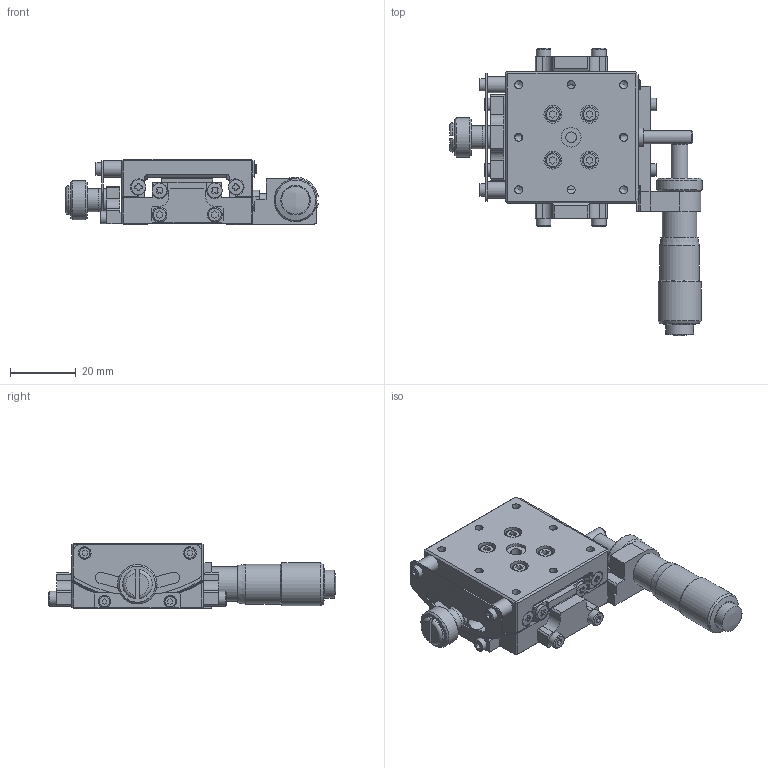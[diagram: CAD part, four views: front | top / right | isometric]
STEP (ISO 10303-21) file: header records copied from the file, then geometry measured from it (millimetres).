
FILE_DESCRIPTION((''),'2;1');
FILE_NAME('Y:\3DDATA\2_OpticalHard\02_海外製品\1_Stags\GOHT\□40ﾏｲｸﾛ式\GOHT-40A20BMSR\GOHT-40A20BMSR.stp','2014-02-27T18:20:49',('m.kadoya'),(''),'Autodesk Inventor 2008','Autodesk Inventor 2008','');
FILE_SCHEMA(('AUTOMOTIVE_DESIGN { 1 0 10303 214 1 1 1 1 }'));
Length unit declared in the file: millimetre
Products named in the file (4): GOHT40A20BMSR-M02-13001-TS01; GOHT40A20BMSR-M02-13001-S10; GOHT40A20BMSR-M02-13001-S11; SHS2-13-C1-S01
Assembly tree (3 placements, depth 2):
  GOHT40A20BMSR-M02-13001-TS01
    GOHT40A20BMSR-M02-13001-S10
    GOHT40A20BMSR-M02-13001-S11
    SHS2-13-C1-S01
Bounding box: 76.93 x 87.47 x 20 mm (x, y, z)
Volume: 33330.3 mm3; surface area: 24656.4 mm2
Topology: 17 solids, 32 shells, 942 faces, 2272 edges, 1480 vertices
Faces by surface type: plane 536, cylinder 174, bspline 148, cone 63, torus 12, sphere 9
Full cylindrical faces by diameter (mm): 1.567 x2, 1.6 x1, 2 x10, 2.5 x8, 3 x5, 3.5 x4, 3.8 x6, 4 x1, 4.2 x1, 4.5 x16, 4.6 x1, 5 x5, 6 x5, 7 x3, 7.3 x2, 7.5 x1, 8.5 x2, 9 x1, 9.9 x1, 10.5 x1, 10.7 x1, 12 x1, 12.1 x1, 13.1 x1
Entity records: 29559 total; most frequent: CARTESIAN_POINT 9232, DIRECTION 4001, ORIENTED_EDGE 3872, EDGE_CURVE 1936, AXIS2_PLACEMENT_3D 1437, VERTEX_POINT 1379, EDGE_LOOP 1343, VECTOR 1127
